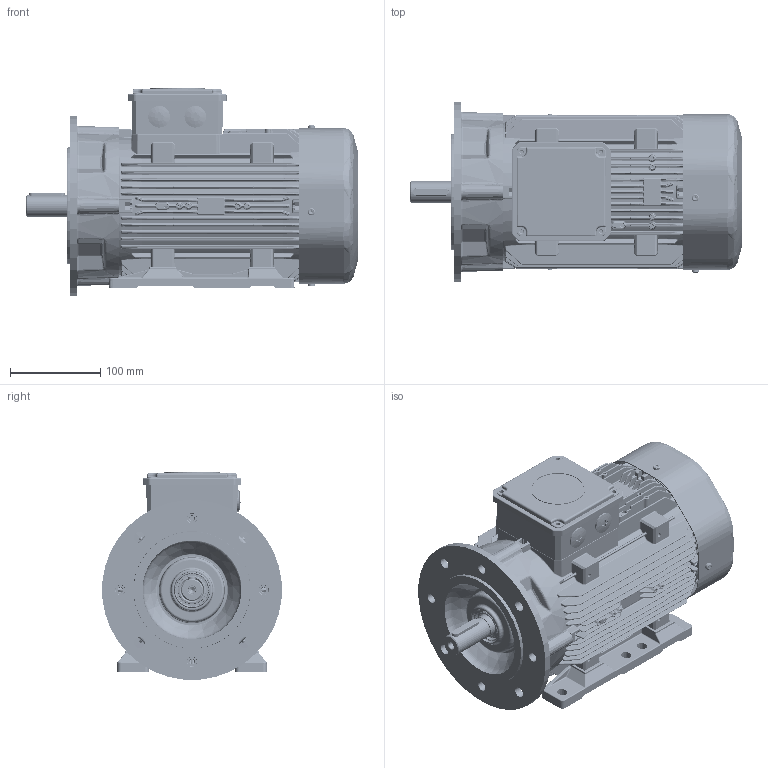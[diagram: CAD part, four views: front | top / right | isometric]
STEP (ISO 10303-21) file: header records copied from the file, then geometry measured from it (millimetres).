
FILE_DESCRIPTION(/* description */ (''),/* implementation_level */ '2;1');
FILE_NAME(/* name */ 'OUTLOOK VIEW QH90 PA B35 FF165 SPL.stp',/* time_stamp */ '2021-09-21T14:31:41+03:00',/* author */ (''),/* organization */ (''),/* preprocessor_version */ 'ST-DEVELOPER v16',/* originating_system */ 'SIEMENS PLM Software NX 11.0',/* authorisation */ '');
FILE_SCHEMA (('AUTOMOTIVE_DESIGN { 1 0 10303 214 3 1 1 1 }'));
Products named in the file (1): 260652D491E0rws8
Bounding box: 367.71 x 198.74 x 229.67 mm (x, y, z)
Volume: 1925903.6 mm3; surface area: 1055341.1 mm2
Topology: 42 solids, 51 shells, 11151 faces, 26685 edges, 15283 vertices
Faces by surface type: bspline 3710, cylinder 3689, plane 2362, torus 491, sphere 434, cone 389, extrusion 76
Full cylindrical faces by diameter (mm): 2.5 x2, 3.242 x3, 3.4 x48, 4 x4, 4.2 x1, 4.6 x12, 4.722 x3, 5 x31, 5.5 x4, 6.8 x1, 8 x3, 8.4 x1, 9.874 x1, 10.5 x4, 12 x4, 14 x2, 19.4 x1, 20 x1, 21 x1, 23.38 x2, 23.4 x1, 23.9 x1, 24 x3, 24.4 x2, 25 x5, 25.5 x2, 27.5 x1, 27.94 x1, 29 x2, 30 x1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
Entity records: 400303 total; most frequent: CARTESIAN_POINT 164183, ORIENTED_EDGE 50796, DIRECTION 45178, EDGE_CURVE 25398, AXIS2_PLACEMENT_3D 18234, VERTEX_POINT 15039, EDGE_LOOP 12109, ADVANCED_FACE 11108
